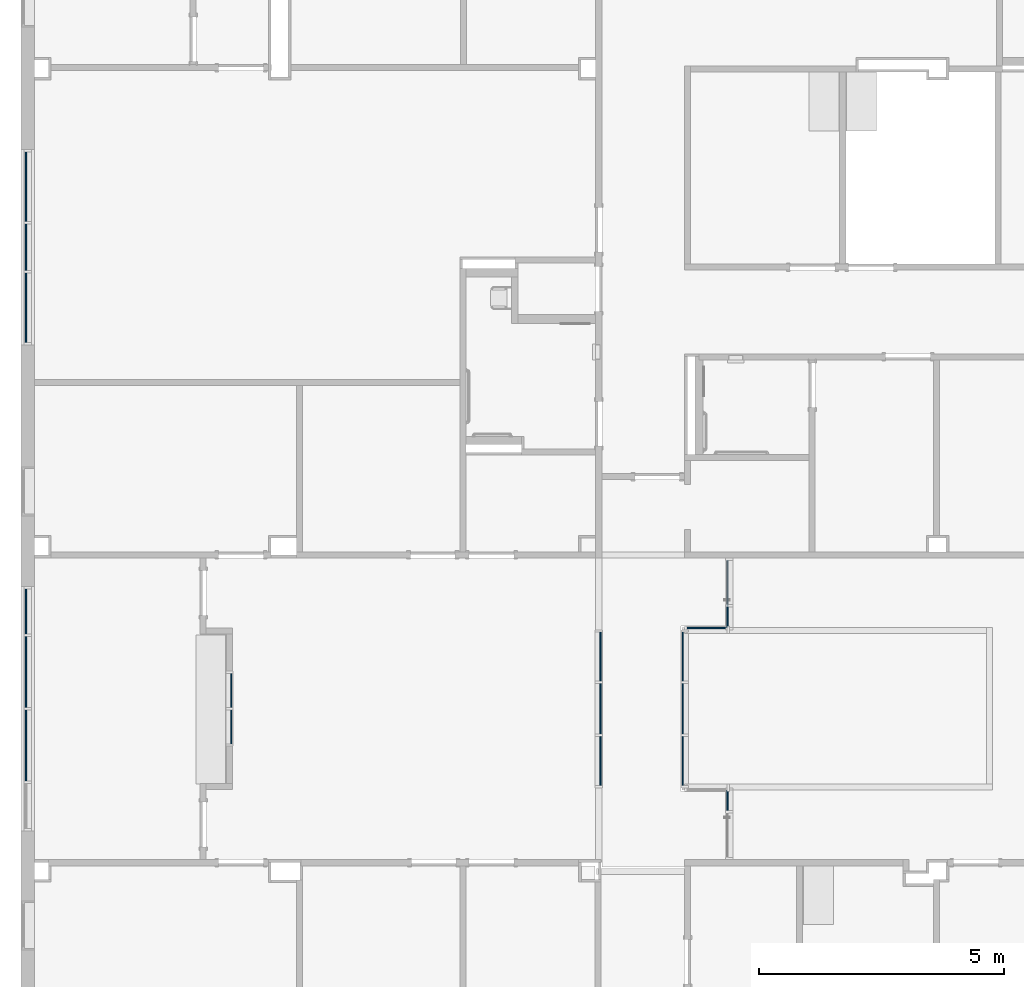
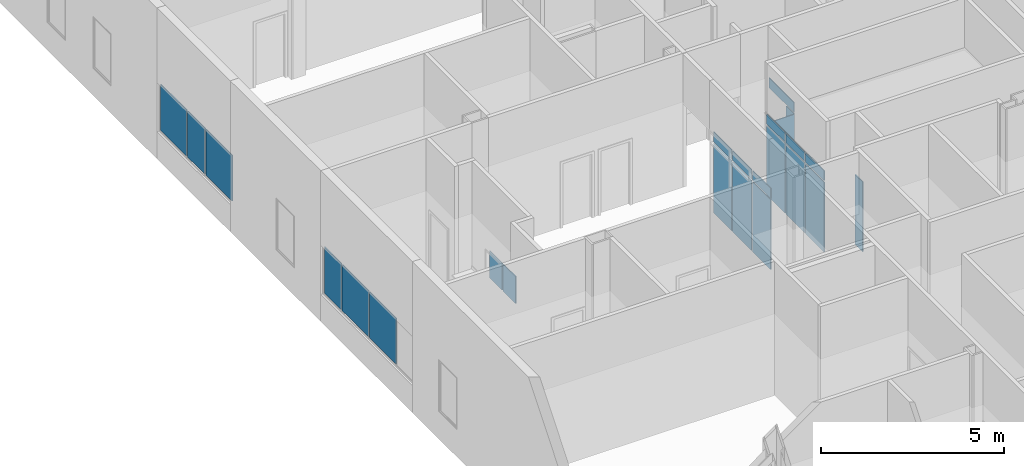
# One storey, part 16 of 87: 24 plates, 8 elements without a shape of their own.
"""IFC2X3 building model written with IfcOpenShell, lengths in metres."""

from ifc_helpers import new_model, entity, si_unit, converted_unit, frame, frame_2d, origin, origin_2d_with_axis, place, context, project, spatial, rectangle, extrude, source, transform, mapped, material, type_object, type_shapes, element, aggregate, save


model = new_model("IFC2X3")

# Units and contexts
model_context = context("Model", 3, precision=1e-09, world=origin())
plan_context = context("Plan", 3, precision=1e-09, world=origin())
ifc_project = project(units=[si_unit("LENGTHUNIT", "METRE"), si_unit("AREAUNIT", "SQUARE_METRE"), si_unit("VOLUMEUNIT", "CUBIC_METRE"), converted_unit("PLANEANGLEUNIT", "DEGREE", entity("IfcRatioMeasure", 0.01745329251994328), si_unit("PLANEANGLEUNIT", "RADIAN"), dimensions=[0, 0, 0, 0, 0, 0, 0]), si_unit("TIMEUNIT", "SECOND")], contexts=[model_context, plan_context])

# Site, building, storey
site_placement = place(None, origin())
site = spatial("IfcSite", under=ifc_project, at=site_placement, Name="Default", CompositionType="ELEMENT")
building_placement = place(site_placement, origin())
building = spatial("IfcBuilding", under=site, at=building_placement, CompositionType="ELEMENT")
storey_placement = place(building_placement, origin())
storey = spatial("IfcBuildingStorey", under=building, at=storey_placement, Name="First Floor", CompositionType="ELEMENT", Elevation=-3.531500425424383e-13)

# Curtain wall, plates
curtain_wall_1_placement = place(storey_placement, origin())
curtain_wall_1 = element("IfcCurtainWall", 1, at=curtain_wall_1_placement, inside=storey, Name="Curtain Wall:Storefront", ObjectType="Curtain Wall:Storefront")
ifc_material = material(Name="Glass")
plate_type_1 = type_object("IfcPlateType", Name="Glazed", PredefinedType="CURTAIN_PANEL")
shared_shape_1 = source(origin(), model_context, "Body", "SweptSolid", [
    extrude(rectangle(XDim=0.025, YDim=0.9249999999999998, at=origin_2d_with_axis()), frame((0.0, 0.03700000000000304, 0.0), z_axis=(0.0, 0.0, 1.0), x_axis=(0.0, 1.0, 0.0)), (0.0, 0.0, 1.0), 1.535),
])
type_shapes(plate_type_1, [shared_shape_1])
plate_1_placement = place(storey_placement, frame((-52.14650000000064, 33.68245592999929, 0.9550000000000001), z_axis=(0.0, 0.0, 1.0), x_axis=(0.0, 1.0, 0.0)))
plate_1 = element("IfcPlate", 2, at=plate_1_placement, type_object=plate_type_1, material=ifc_material, Name="System Panel:Glazed:Glazed", ObjectType="Glazed", context=model_context, shape_type="MappedRepresentation", body=[
    mapped(shared_shape_1, transform((0.0, 0.0, 0.0), scale=1.0)),
])
plate_type_2 = type_object("IfcPlateType", Name="Glazed", PredefinedType="CURTAIN_PANEL")
shared_shape_2 = source(origin(), model_context, "Body", "SweptSolid", [
    extrude(rectangle(XDim=0.025, YDim=1.45, at=origin_2d_with_axis()), frame((0.0, 0.03700000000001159, 0.0), z_axis=(0.0, 0.0, 1.0), x_axis=(0.0, 1.0, 0.0)), (0.0, 0.0, 1.0), 1.535),
])
type_shapes(plate_type_2, [shared_shape_2])
plate_2_placement = place(storey_placement, frame((-52.14650000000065, 30.94495592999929, 0.9550000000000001), z_axis=(0.0, 0.0, 1.0), x_axis=(0.0, 1.0, 0.0)))
plate_2 = element("IfcPlate", 3, at=plate_2_placement, type_object=plate_type_2, material=ifc_material, Name="System Panel:Glazed:Glazed", ObjectType="Glazed", context=model_context, shape_type="MappedRepresentation", body=[
    mapped(shared_shape_2, transform((0.0, 0.0, 0.0), scale=1.0)),
])
plate_3_placement = place(storey_placement, frame((-52.14650000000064, 32.44495592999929, 0.9550000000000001), z_axis=(0.0, 0.0, 1.0), x_axis=(0.0, 1.0, 0.0)))
plate_3 = element("IfcPlate", 4, at=plate_3_placement, type_object=plate_type_2, material=ifc_material, Name="System Panel:Glazed:Glazed", ObjectType="Glazed", context=model_context, shape_type="MappedRepresentation", body=[
    mapped(shared_shape_2, transform((0.0, 0.0, 0.0), scale=1.0)),
])
aggregate(curtain_wall_1, [plate_2, plate_3, plate_1])

curtain_wall_2_placement = place(storey_placement, origin())
curtain_wall_2 = element("IfcCurtainWall", 5, at=curtain_wall_2_placement, inside=storey, Name="Curtain Wall:Storefront", ObjectType="Curtain Wall:Storefront")
plate_type_3 = type_object("IfcPlateType", Name="Glazed", PredefinedType="CURTAIN_PANEL")
shared_shape_3 = source(origin(), model_context, "Body", "SweptSolid", [
    extrude(rectangle(XDim=0.025, YDim=1.424999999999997, at=origin_2d_with_axis()), frame((0.0, 0.03700000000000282, 0.0), z_axis=(0.0, 0.0, 1.0), x_axis=(0.0, 1.0, 0.0)), (0.0, 0.0, 1.0), 1.535),
])
type_shapes(plate_type_3, [shared_shape_3])
plate_4_placement = place(storey_placement, frame((-52.14650000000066, 39.89245228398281, 0.9550000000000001), z_axis=(0.0, 0.0, 1.0), x_axis=(0.0, 1.0, 0.0)))
plate_4 = element("IfcPlate", 6, at=plate_4_placement, type_object=plate_type_3, material=ifc_material, Name="System Panel:Glazed:Glazed", ObjectType="Glazed", context=model_context, shape_type="MappedRepresentation", body=[
    mapped(shared_shape_3, transform((0.0, 0.0, 0.0), scale=1.0)),
])
plate_5_placement = place(storey_placement, frame((-52.14650000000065, 42.36745228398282, 0.9550000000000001), z_axis=(0.0, 0.0, 1.0), x_axis=(0.0, 1.0, 0.0)))
plate_5 = element("IfcPlate", 7, at=plate_5_placement, type_object=plate_type_3, material=ifc_material, Name="System Panel:Glazed:Glazed", ObjectType="Glazed", context=model_context, shape_type="MappedRepresentation", body=[
    mapped(shared_shape_3, transform((0.0, 0.0, 0.0), scale=1.0)),
])
plate_type_4 = type_object("IfcPlateType", Name="Glazed", PredefinedType="CURTAIN_PANEL")
shared_shape_4 = source(origin(), model_context, "Body", "SweptSolid", [
    extrude(rectangle(XDim=0.025, YDim=0.9500000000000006, at=origin_2d_with_axis()), frame((0.0, 0.03700000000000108, 0.0), z_axis=(0.0, 0.0, 1.0), x_axis=(0.0, 1.0, 0.0)), (0.0, 0.0, 1.0), 1.535),
])
type_shapes(plate_type_4, [shared_shape_4])
plate_6_placement = place(storey_placement, frame((-52.14650000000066, 41.12995228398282, 0.9550000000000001), z_axis=(0.0, 0.0, 1.0), x_axis=(0.0, 1.0, 0.0)))
plate_6 = element("IfcPlate", 8, at=plate_6_placement, type_object=plate_type_4, material=ifc_material, Name="System Panel:Glazed:Glazed", ObjectType="Glazed", context=model_context, shape_type="MappedRepresentation", body=[
    mapped(shared_shape_4, transform((0.0, 0.0, 0.0), scale=1.0)),
])
aggregate(curtain_wall_2, [plate_4, plate_6, plate_5])

# Curtain wall, plate
curtain_wall_3_placement = place(storey_placement, origin())
curtain_wall_3 = element("IfcCurtainWall", 9, at=curtain_wall_3_placement, inside=storey, Name="Curtain Wall:Storefront - Interior", ObjectType="Curtain Wall:Storefront - Interior")
plate_type_5 = type_object("IfcPlateType", Name="Glazed", PredefinedType="CURTAIN_PANEL")
shared_shape_5 = source(origin(), model_context, "Body", "SweptSolid", [
    extrude(rectangle(XDim=0.025, YDim=0.4189994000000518, at=origin_2d_with_axis()), frame((0.0, 0.03700000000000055, 0.0), z_axis=(0.0, 0.0, 1.0), x_axis=(0.0, 1.0, 0.0)), (0.0, 0.0, 1.0), 2.325),
])
type_shapes(plate_type_5, [shared_shape_5])
plate_7_placement = place(storey_placement, frame((-37.80500000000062, 29.82050029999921, 0.05), z_axis=(0.0, 0.0, 1.0), x_axis=(0.0, 1.0, 0.0)))
plate_7 = element("IfcPlate", 10, at=plate_7_placement, type_object=plate_type_5, material=ifc_material, Name="System Panel:Glazed:Glazed", ObjectType="Glazed", context=model_context, shape_type="MappedRepresentation", body=[
    mapped(shared_shape_5, transform((0.0, 0.0, 0.0), scale=1.0)),
])
aggregate(curtain_wall_3, [plate_7])

curtain_wall_4_placement = place(storey_placement, origin())
curtain_wall_4 = element("IfcCurtainWall", 11, at=curtain_wall_4_placement, inside=storey, Name="Curtain Wall:Storefront - Interior", ObjectType="Curtain Wall:Storefront - Interior")
plate_type_6 = type_object("IfcPlateType", Name="Glazed", PredefinedType="CURTAIN_PANEL")
shared_shape_6 = source(origin(), model_context, "Body", "SweptSolid", [
    extrude(rectangle(XDim=0.025, YDim=0.8149999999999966, at=origin_2d_with_axis()), frame((0.0, 0.03699999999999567, 0.0), z_axis=(0.0, 0.0, 1.0), x_axis=(0.0, 1.0, 0.0)), (0.0, 0.0, 1.0), 2.324999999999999),
])
type_shapes(plate_type_6, [shared_shape_6])
plate_8_placement = place(storey_placement, frame((-38.26250000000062, 33.30999999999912, 0.05)))
plate_8 = element("IfcPlate", 12, at=plate_8_placement, type_object=plate_type_6, material=ifc_material, Name="System Panel:Glazed:Glazed", ObjectType="Glazed", context=model_context, shape_type="MappedRepresentation", body=[
    mapped(shared_shape_6, transform((0.0, 0.0, 0.0), scale=1.0)),
])
aggregate(curtain_wall_4, [plate_8])

# Curtain wall, plates
curtain_wall_5_placement = place(storey_placement, origin())
curtain_wall_5 = element("IfcCurtainWall", 13, at=curtain_wall_5_placement, inside=storey, Name="Curtain Wall:Storefront - Interior", ObjectType="Curtain Wall:Storefront - Interior")
plate_type_7 = type_object("IfcPlateType", Name="Glazed", PredefinedType="CURTAIN_PANEL")
shared_shape_7 = source(origin(), model_context, "Body", "SweptSolid", [
    extrude(rectangle(XDim=0.025, YDim=1.00166666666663, at=origin_2d_with_axis()), frame((0.0, 0.03700000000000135, 0.0), z_axis=(0.0, 0.0, 1.0), x_axis=(0.0, 1.0, 0.0)), (0.0, 0.0, 1.0), 2.324999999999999),
])
type_shapes(plate_type_7, [shared_shape_7])
plate_9_placement = place(storey_placement, frame((-38.72000000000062, 30.63083333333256, 0.05), z_axis=(0.0, 0.0, 1.0), x_axis=(0.0, 1.0, 0.0)))
plate_9 = element("IfcPlate", 14, at=plate_9_placement, type_object=plate_type_7, material=ifc_material, Name="System Panel:Glazed:Glazed", ObjectType="Glazed", context=model_context, shape_type="MappedRepresentation", body=[
    mapped(shared_shape_7, transform((0.0, 0.0, 0.0), scale=1.0)),
])
plate_10_placement = place(storey_placement, frame((-38.72000000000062, 32.75916666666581, 0.05), z_axis=(0.0, 0.0, 1.0), x_axis=(0.0, 1.0, 0.0)))
plate_10 = element("IfcPlate", 15, at=plate_10_placement, type_object=plate_type_7, material=ifc_material, Name="System Panel:Glazed:Glazed", ObjectType="Glazed", context=model_context, shape_type="MappedRepresentation", body=[
    mapped(shared_shape_7, transform((0.0, 0.0, 0.0), scale=1.0)),
])

curtain_wall_6_placement = place(storey_placement, origin())
curtain_wall_6 = element("IfcCurtainWall", 16, at=curtain_wall_6_placement, inside=storey, Name="Curtain Wall:Storefront - Interior", ObjectType="Curtain Wall:Storefront - Interior")
plate_11_placement = place(storey_placement, frame((-40.47500000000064, 32.75916666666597, 0.05), z_axis=(0.0, 0.0, 1.0), x_axis=(0.0, -1.0, 0.0)))
plate_11 = element("IfcPlate", 17, at=plate_11_placement, type_object=plate_type_7, material=ifc_material, Name="System Panel:Glazed:Glazed", ObjectType="Glazed", context=model_context, shape_type="MappedRepresentation", body=[
    mapped(shared_shape_7, transform((0.0, 0.0, 0.0), scale=1.0)),
])
plate_12_placement = place(storey_placement, frame((-40.47500000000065, 30.63083333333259, 0.05), z_axis=(0.0, 0.0, 1.0), x_axis=(0.0, -1.0, 0.0)))
plate_12 = element("IfcPlate", 18, at=plate_12_placement, type_object=plate_type_7, material=ifc_material, Name="System Panel:Glazed:Glazed", ObjectType="Glazed", context=model_context, shape_type="MappedRepresentation", body=[
    mapped(shared_shape_7, transform((0.0, 0.0, 0.0), scale=1.0)),
])

# Plate
plate_type_8 = type_object("IfcPlateType", Name="Glazed", PredefinedType="CURTAIN_PANEL")
shared_shape_8 = source(origin(), model_context, "Body", "SweptSolid", [
    extrude(rectangle(XDim=0.025, YDim=1.026666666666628, at=origin_2d_with_axis()), frame((0.0, 0.03699999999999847, 0.0), z_axis=(0.0, 0.0, 1.0), x_axis=(0.0, 1.0, 0.0)), (0.0, 0.0, 1.0), 2.325),
])
type_shapes(plate_type_8, [shared_shape_8])
plate_13_placement = place(storey_placement, frame((-38.72000000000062, 31.69499999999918, 0.05), z_axis=(0.0, 0.0, 1.0), x_axis=(0.0, 1.0, 0.0)))
plate_13 = element("IfcPlate", 19, at=plate_13_placement, type_object=plate_type_8, material=ifc_material, Name="System Panel:Glazed:Glazed", ObjectType="Glazed", context=model_context, shape_type="MappedRepresentation", body=[
    mapped(shared_shape_8, transform((0.0, 0.0, 0.0), scale=1.0)),
])

plate_14_placement = place(storey_placement, frame((-40.47500000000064, 31.69499999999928, 0.05), z_axis=(0.0, 0.0, 1.0), x_axis=(0.0, -1.0, 0.0)))
plate_14 = element("IfcPlate", 20, at=plate_14_placement, type_object=plate_type_8, material=ifc_material, Name="System Panel:Glazed:Glazed", ObjectType="Glazed", context=model_context, shape_type="MappedRepresentation", body=[
    mapped(shared_shape_8, transform((0.0, 0.0, 0.0), scale=1.0)),
])

plate_type_9 = type_object("IfcPlateType", Name="Glazed", PredefinedType="CURTAIN_PANEL")
shared_shape_9 = source(origin(), model_context, "Body", "SweptSolid", [
    extrude(rectangle(XDim=0.025, YDim=1.001666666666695, at=origin_2d_with_axis()), frame((0.0, 0.03699999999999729, 0.0), z_axis=(0.0, 0.0, 1.0), x_axis=(0.0, 1.0, 0.0)), (0.0, 0.0, 1.0), 0.325),
])
type_shapes(plate_type_9, [shared_shape_9])
plate_15_placement = place(storey_placement, frame((-38.72000000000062, 30.63083333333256, 2.424999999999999), z_axis=(0.0, 0.0, 1.0), x_axis=(0.0, 1.0, 0.0)))
plate_15 = element("IfcPlate", 21, at=plate_15_placement, type_object=plate_type_9, material=ifc_material, Name="System Panel:Glazed:Glazed", ObjectType="Glazed", context=model_context, shape_type="MappedRepresentation", body=[
    mapped(shared_shape_9, transform((0.0, 0.0, 0.0), scale=1.0)),
])

plate_16_placement = place(storey_placement, frame((-38.72000000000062, 32.75916666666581, 2.424999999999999), z_axis=(0.0, 0.0, 1.0), x_axis=(0.0, 1.0, 0.0)))
plate_16 = element("IfcPlate", 22, at=plate_16_placement, type_object=plate_type_9, material=ifc_material, Name="System Panel:Glazed:Glazed", ObjectType="Glazed", context=model_context, shape_type="MappedRepresentation", body=[
    mapped(shared_shape_9, transform((0.0, 0.0, 0.0), scale=1.0)),
])

plate_17_placement = place(storey_placement, frame((-40.47500000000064, 32.75916666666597, 2.425), z_axis=(0.0, 0.0, 1.0), x_axis=(0.0, -1.0, 0.0)))
plate_17 = element("IfcPlate", 23, at=plate_17_placement, type_object=plate_type_9, material=ifc_material, Name="System Panel:Glazed:Glazed", ObjectType="Glazed", context=model_context, shape_type="MappedRepresentation", body=[
    mapped(shared_shape_9, transform((0.0, 0.0, 0.0), scale=1.0)),
])

plate_18_placement = place(storey_placement, frame((-40.47500000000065, 30.63083333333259, 2.425), z_axis=(0.0, 0.0, 1.0), x_axis=(0.0, -1.0, 0.0)))
plate_18 = element("IfcPlate", 24, at=plate_18_placement, type_object=plate_type_9, material=ifc_material, Name="System Panel:Glazed:Glazed", ObjectType="Glazed", context=model_context, shape_type="MappedRepresentation", body=[
    mapped(shared_shape_9, transform((0.0, 0.0, 0.0), scale=1.0)),
])

plate_type_10 = type_object("IfcPlateType", Name="Glazed", PredefinedType="CURTAIN_PANEL")
shared_shape_10 = source(origin(), model_context, "Body", "SweptSolid", [
    extrude(rectangle(XDim=0.025, YDim=1.026666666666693, at=origin_2d_with_axis()), frame((0.0, 0.03700000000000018, 0.0), z_axis=(0.0, 0.0, 1.0), x_axis=(0.0, 1.0, 0.0)), (0.0, 0.0, 1.0), 0.325),
])
type_shapes(plate_type_10, [shared_shape_10])
plate_19_placement = place(storey_placement, frame((-38.72000000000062, 31.69499999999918, 2.424999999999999), z_axis=(0.0, 0.0, 1.0), x_axis=(0.0, 1.0, 0.0)))
plate_19 = element("IfcPlate", 25, at=plate_19_placement, type_object=plate_type_10, material=ifc_material, Name="System Panel:Glazed:Glazed", ObjectType="Glazed", context=model_context, shape_type="MappedRepresentation", body=[
    mapped(shared_shape_10, transform((0.0, 0.0, 0.0), scale=1.0)),
])

aggregate(curtain_wall_5, [plate_9, plate_13, plate_10, plate_15, plate_19, plate_16])

plate_20_placement = place(storey_placement, frame((-40.47500000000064, 31.69499999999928, 2.425), z_axis=(0.0, 0.0, 1.0), x_axis=(0.0, -1.0, 0.0)))
plate_20 = element("IfcPlate", 26, at=plate_20_placement, type_object=plate_type_10, material=ifc_material, Name="System Panel:Glazed:Glazed", ObjectType="Glazed", context=model_context, shape_type="MappedRepresentation", body=[
    mapped(shared_shape_10, transform((0.0, 0.0, 0.0), scale=1.0)),
])

aggregate(curtain_wall_6, [plate_11, plate_14, plate_12, plate_17, plate_20, plate_18])

# Curtain wall, plates
curtain_wall_7_placement = place(storey_placement, origin())
curtain_wall_7 = element("IfcCurtainWall", 27, at=curtain_wall_7_placement, inside=storey, Name="Curtain Wall:Storefront - Interior", ObjectType="Curtain Wall:Storefront - Interior")
plate_type_11 = type_object("IfcPlateType", Name="Glazed", PredefinedType="CURTAIN_PANEL")
shared_shape_11 = source(origin(), model_context, "Body", "SweptSolid", [
    extrude(rectangle(XDim=0.025, YDim=0.4199994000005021, at=origin_2d_with_axis()), frame((0.0, 0.03699999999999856, 0.0), z_axis=(0.0, 0.0, 1.0), x_axis=(0.0, 1.0, 0.0)), (0.0, 0.0, 1.0), 2.324999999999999),
])
type_shapes(plate_type_11, [shared_shape_11])
plate_21_placement = place(storey_placement, frame((-37.80500000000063, 33.56999969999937, 0.05), z_axis=(0.0, 0.0, 1.0), x_axis=(0.0, 1.0, 0.0)))
plate_21 = element("IfcPlate", 28, at=plate_21_placement, type_object=plate_type_11, material=ifc_material, Name="System Panel:Glazed:Glazed", ObjectType="Glazed", context=model_context, shape_type="MappedRepresentation", body=[
    mapped(shared_shape_11, transform((0.0, 0.0, 0.0), scale=1.0)),
])
plate_type_12 = type_object("IfcPlateType", Name="Glazed", PredefinedType="CURTAIN_PANEL")
shared_shape_12 = source(origin(), model_context, "Body", "SweptSolid", [
    extrude(rectangle(XDim=0.325, YDim=1.369548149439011, at=frame_2d((0.0, 0.07992489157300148), x_axis=(1.0, 0.0))), frame((-0.07992489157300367, 0.02449999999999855, 0.1624999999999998), z_axis=(0.0, 1.0, 0.0), x_axis=(0.0, 0.0, 1.0)), (0.0, 0.0, 1.0), 0.025),
])
type_shapes(plate_type_12, [shared_shape_12])
plate_22_placement = place(storey_placement, frame((-37.80500000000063, 34.04477407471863, 2.424999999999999), z_axis=(0.0, 0.0, 1.0), x_axis=(0.0, 1.0, 0.0)))
plate_22 = element("IfcPlate", 29, at=plate_22_placement, type_object=plate_type_12, material=ifc_material, Name="System Panel:Glazed:Glazed", ObjectType="Glazed", context=model_context, shape_type="MappedRepresentation", body=[
    mapped(shared_shape_12, transform((0.0, 0.0, 0.0), scale=1.0)),
])
aggregate(curtain_wall_7, [plate_21, plate_22])

curtain_wall_8_placement = place(storey_placement, origin())
curtain_wall_8 = element("IfcCurtainWall", 30, at=curtain_wall_8_placement, inside=storey, Name="Curtain Wall:Storefront - Interior", ObjectType="Curtain Wall:Storefront - Interior")
plate_type_13 = type_object("IfcPlateType", Name="Glazed", PredefinedType="CURTAIN_PANEL")
shared_shape_13 = source(origin(), model_context, "Body", "SweptSolid", [
    extrude(rectangle(XDim=0.025, YDim=0.6919999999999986, at=origin_2d_with_axis()), frame((0.0, 0.037, 0.0), z_axis=(0.0, 0.0, 1.0), x_axis=(0.0, 1.0, 0.0)), (0.0, 0.0, 1.0), 0.8999999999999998),
])
type_shapes(plate_type_13, [shared_shape_13])
plate_23_placement = place(storey_placement, frame((-48.02299986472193, 32.06799999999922, 1.05), z_axis=(0.0, 0.0, 1.0), x_axis=(0.0, -1.0, 0.0)))
plate_23 = element("IfcPlate", 31, at=plate_23_placement, type_object=plate_type_13, material=ifc_material, Name="System Panel:Glazed:Glazed", ObjectType="Glazed", context=model_context, shape_type="MappedRepresentation", body=[
    mapped(shared_shape_13, transform((0.0, 0.0, 0.0), scale=1.0)),
])
plate_24_placement = place(storey_placement, frame((-48.02299986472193, 31.32599999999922, 1.05), z_axis=(0.0, 0.0, 1.0), x_axis=(0.0, -1.0, 0.0)))
plate_24 = element("IfcPlate", 32, at=plate_24_placement, type_object=plate_type_13, material=ifc_material, Name="System Panel:Glazed:Glazed", ObjectType="Glazed", context=model_context, shape_type="MappedRepresentation", body=[
    mapped(shared_shape_13, transform((0.0, 0.0, 0.0), scale=1.0)),
])
aggregate(curtain_wall_8, [plate_23, plate_24])

save(model, "model.ifc")
